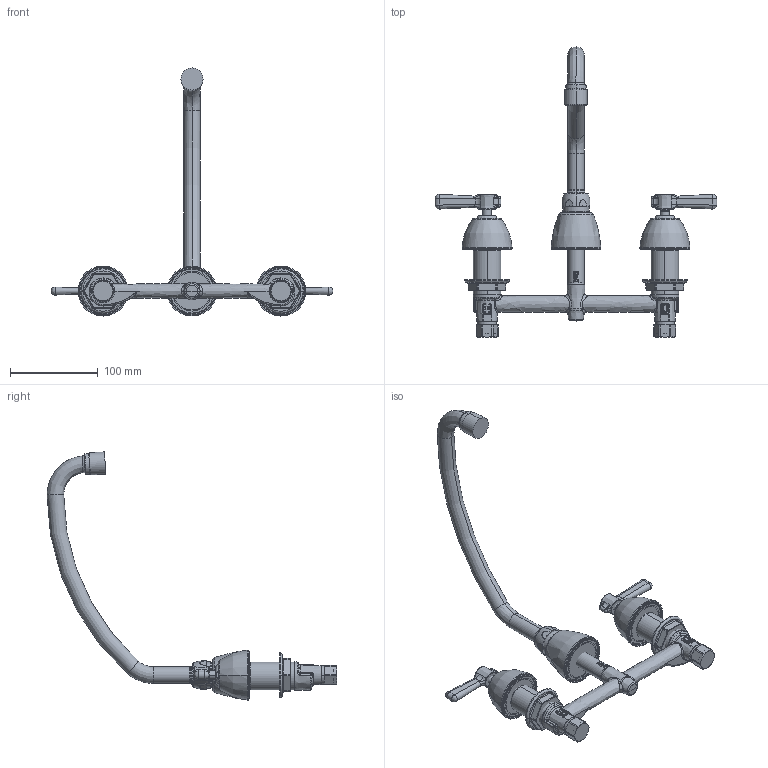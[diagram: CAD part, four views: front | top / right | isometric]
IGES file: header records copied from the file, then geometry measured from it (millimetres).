
Start section:  PTC IGES file: 201-RSL9E3VPCP_REV061411.igs
Global section: file name: 201-RSL9E3VPCP_REV061411.igs; native system: Pro/ENGINEER by Parametric Technology Corporation; preprocessor: 2010230; author: sdmitruk; organization: Unknown; date: 20110614.132411; units: inch
Bounding box: 322.07 x 331.22 x 283.51 mm (x, y, z)
Surface area: 128565.8 mm2 (no closed solid volume)
Topology: 0 solids, 0 shells, 801 faces, 5488 edges, 7257 vertices
Faces by surface type: revolution 406, bspline 395
